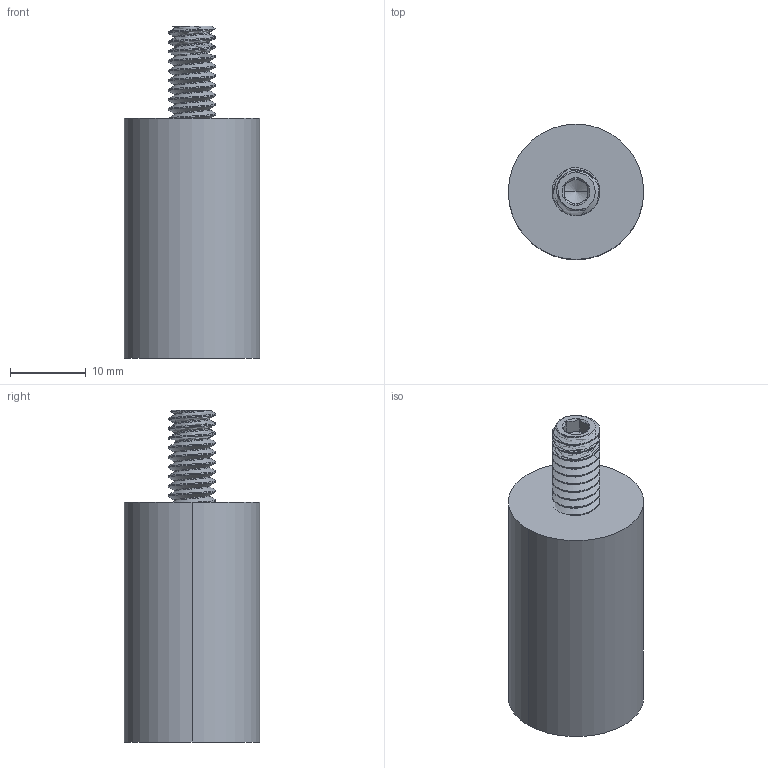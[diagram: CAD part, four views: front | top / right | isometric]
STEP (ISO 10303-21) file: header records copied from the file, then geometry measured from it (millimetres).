
FILE_DESCRIPTION (( 'STEP AP203' ), '1' );
FILE_NAME ('FDPCK-.5PULTRUD-STUD-1-4-20-L.step', '2019-09-11T18:21:36', ( 'ydmin' ), ( '' ), 'SwSTEP 2.0', 'SolidWorks 2017', '' );
FILE_SCHEMA (( 'CONFIG_CONTROL_DESIGN' ));
Length unit declared in the file: inch
Products named in the file (1): FDPCK-.5PULTRUD-STUD-1-4-20-L
Bounding box: 17.91 x 17.91 x 43.93 mm (x, y, z)
Volume: 5634.9 mm3; surface area: 4030.2 mm2
Topology: 2 solids, 2 shells, 80 faces, 205 edges, 126 vertices
Faces by surface type: cylinder 44, cone 18, plane 15, bspline 3
Entity records: 5580 total; most frequent: CARTESIAN_POINT 3849, ORIENTED_EDGE 402, DIRECTION 290, EDGE_CURVE 201, VERTEX_POINT 126, AXIS2_PLACEMENT_3D 109, EDGE_LOOP 83, FACE_OUTER_BOUND 80
